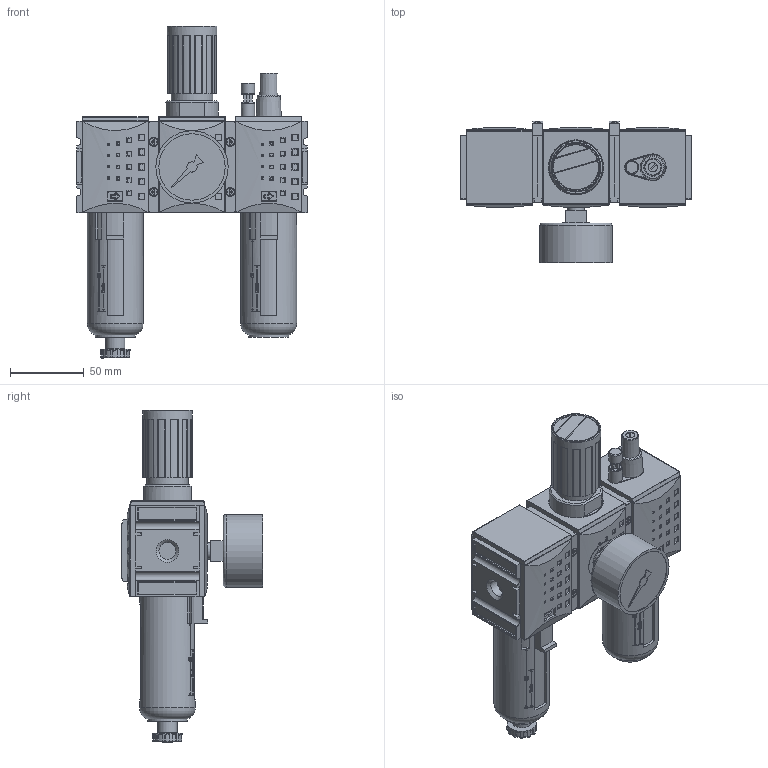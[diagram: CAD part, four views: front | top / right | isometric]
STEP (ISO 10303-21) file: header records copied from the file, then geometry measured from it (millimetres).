
FILE_DESCRIPTION((''),'2;1');
FILE_NAME('K:\ZEICHNG\Kunden Modelle\Step Modelle\AS2 BG1\Airtec Schweden\KS3U-114.stp','2010-01-29T13:03:15',('DDruske'),(''),'Autodesk Inventor 2009','Autodesk Inventor 2009','');
FILE_SCHEMA(('AUTOMOTIVE_DESIGN { 1 0 10303 214 1 1 1 1 }'));
Length unit declared in the file: millimetre
Products named in the file (1): Bauteil2
Bounding box: 156 x 96.1 x 225 mm (x, y, z)
Volume: 742499.1 mm3; surface area: 139881.7 mm2
Topology: 2 solids, 22 shells, 3216 faces, 8548 edges, 5406 vertices
Faces by surface type: plane 1134, cylinder 1086, bspline 654, torus 295, sphere 24, cone 23
Full cylindrical faces by diameter (mm): 3 x4, 5.283 x2, 5.5 x2, 6.3 x1, 9 x2, 10 x2, 11.445 x9, 11.45 x1, 13 x1, 15.1 x3, 16.8 x5, 20 x1, 27 x2, 28 x4, 30 x1, 33.5 x1, 35 x3, 36 x1, 37.8 x2, 42 x1, 45 x1, 49 x1
Entity records: 121843 total; most frequent: CARTESIAN_POINT 42211, ORIENTED_EDGE 16598, DIRECTION 14913, EDGE_CURVE 8299, VERTEX_POINT 5372, AXIS2_PLACEMENT_3D 5199, VECTOR 4515, LINE 4515
